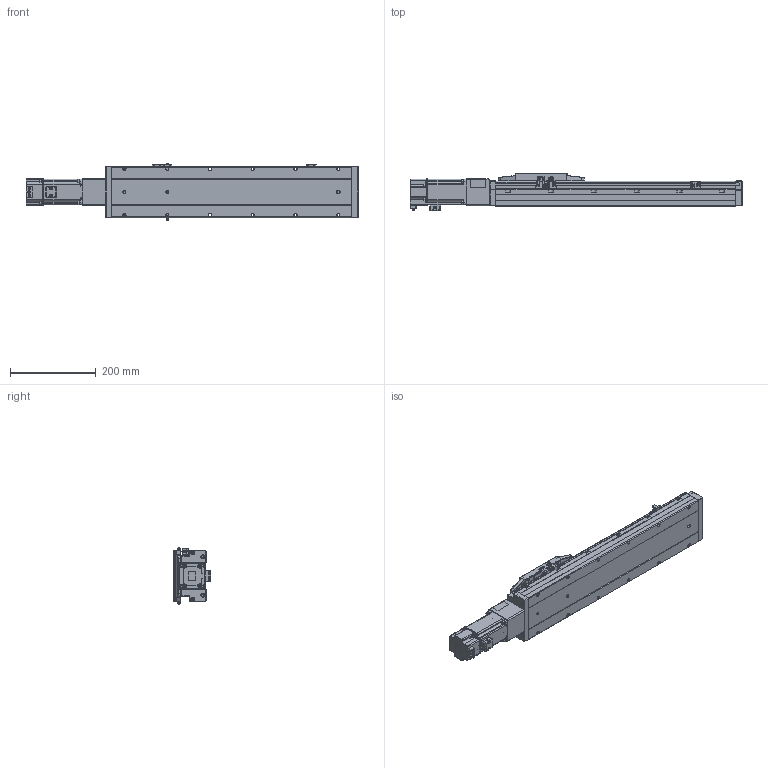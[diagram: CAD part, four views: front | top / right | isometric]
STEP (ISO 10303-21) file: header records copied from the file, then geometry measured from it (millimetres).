
FILE_DESCRIPTION (( 'STEP AP214' ), '1' );
FILE_NAME ('CTH12-L10-S350-BC-C40（简）.STEP', '2023-02-06T05:31:30', ( '' ), ( '' ), 'SwSTEP 2.0', 'SolidWorks 2018', '' );
FILE_SCHEMA (( 'AUTOMOTIVE_DESIGN' ));
Length unit declared in the file: millimetre
Products named in the file (23): CTH12底座-L561简（350行程）; 嫖萇羲壽郪磁1333; 400W萇儂; 湮賑怢  裔赽-1(CTH12)賑怢; 嫖萇羲壽郪磁2; hex nuts, style 1-grades ab gb_GB_FASTENER_NUT_SNAB1 M3-N; CTH12; 蚐郲; CTH嫖萇羲壽假蚾啣; CTH12賑怢郪磁; CTH12賑怢ㄗ潠ㄘ; CTH12-BC-06-T40（cth8-bc-06-t40-G）_1; CTH12-BL_body_4; CTH12_body_3; CTH12萇儂釱; 内六角圆柱头螺钉M3; PM-Y45; 内六角圆柱头螺钉M3-2; CTH12覜茼え; CTH12-BC-03_1; 内六角圆柱头螺钉M3-1; M5蹟隊; CTH12-L10-S350-BC-C40（简）
Assembly tree (43 placements, depth 4):
  CTH12-L10-S350-BC-C40（简）
    CTH12底座-L561简（350行程）
    蚐郲  x2
    CTH12-BL_body_4
    CTH12_body_3
    CTH12賑怢郪磁
      CTH12
        湮賑怢  裔赽-1(CTH12)賑怢
        CTH12賑怢ㄗ潠ㄘ
    CTH12覜茼え
    嫖萇羲壽郪磁2
      CTH嫖萇羲壽假蚾啣
      PM-Y45
      内六角圆柱头螺钉M3-1  x2
      内六角圆柱头螺钉M3-2  x2
      hex nuts, style 1-grades ab gb_GB_FASTENER_NUT_SNAB1 M3-N  x2
    CTH12萇儂釱
      CTH12-BC-03_1
      CTH12-BC-06-T40（cth8-bc-06-t40-G）_1
    嫖萇羲壽郪磁1333  x2
      CTH嫖萇羲壽假蚾啣
      PM-Y45
      内六角圆柱头螺钉M3-2
      内六角圆柱头螺钉M3-1
      hex nuts, style 1-grades ab gb_GB_FASTENER_NUT_SNAB1 M3-N
    内六角圆柱头螺钉M3  x6
    400W萇儂
    M5蹟隊  x4
Bounding box: 775.8 x 86.5 x 131.52 mm (x, y, z)
Volume: 4259469.8 mm3; surface area: 496122.2 mm2
Topology: 45 solids, 47 shells, 2798 faces, 6926 edges, 4353 vertices
Faces by surface type: plane 1392, cylinder 851, cone 299, bspline 128, torus 124, sphere 4
Entity records: 86176 total; most frequent: CARTESIAN_POINT 29534, ORIENTED_EDGE 10954, DIRECTION 10672, EDGE_CURVE 5477, AXIS2_PLACEMENT_3D 3741, VERTEX_POINT 3457, VECTOR 3190, LINE 3190
